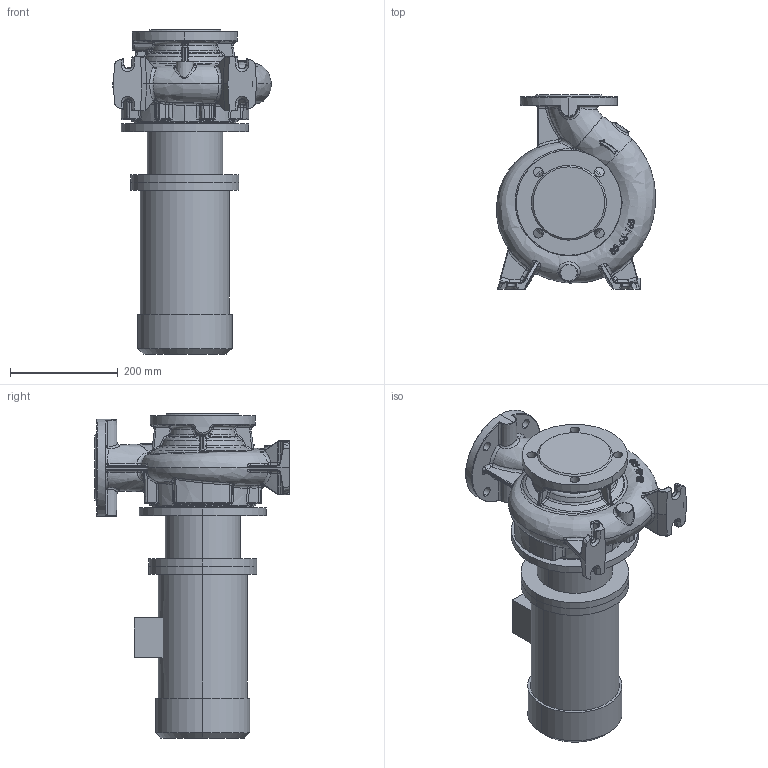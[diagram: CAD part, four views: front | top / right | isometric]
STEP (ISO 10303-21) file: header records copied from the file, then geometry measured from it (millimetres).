
FILE_DESCRIPTION (( 'STEP AP203' ), '1' );
FILE_NAME ('KRM 80-65-160-4-1,5.STEP', '2026-05-07T11:56:06', ( '' ), ( '' ), 'SwSTEP 2.0', 'SolidWorks 2016', '' );
FILE_SCHEMA (( 'CONFIG_CONTROL_DESIGN' ));
Length unit declared in the file: millimetre
Products named in the file (1): KRM 80-65-160-4-1,5
Bounding box: 295.12 x 360 x 600.8 mm (x, y, z)
Volume: 18253327.6 mm3; surface area: 899754.1 mm2
Topology: 14 solids, 14 shells, 1113 faces, 2656 edges, 1559 vertices
Faces by surface type: bspline 533, cylinder 208, plane 191, torus 104, cone 58, sphere 19
Entity records: 61492 total; most frequent: CARTESIAN_POINT 39770, ORIENTED_EDGE 5254, DIRECTION 3533, EDGE_CURVE 2627, VERTEX_POINT 1559, AXIS2_PLACEMENT_3D 1480, EDGE_LOOP 1158, FACE_OUTER_BOUND 1113
